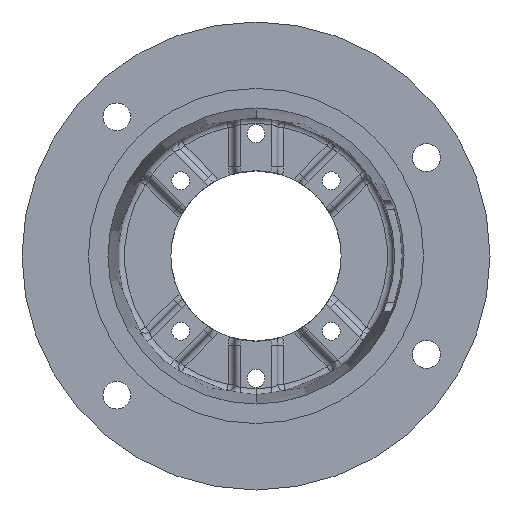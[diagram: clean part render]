
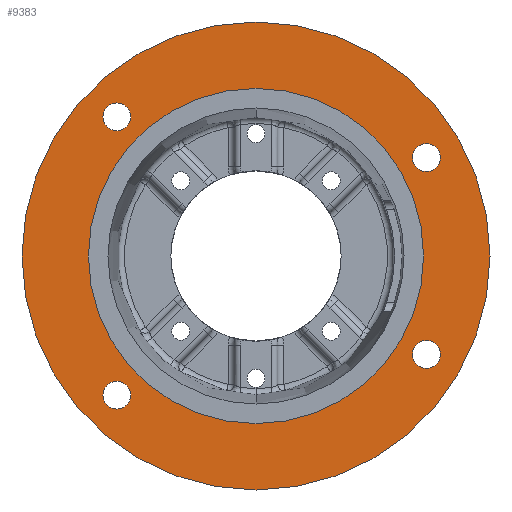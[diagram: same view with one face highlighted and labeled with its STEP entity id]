
A CAD part, front view. The second image highlights one B-rep face of the part: STEP entity #9383.
In plain terms, the highlighted planar face has unit normal (0, -1, 0).
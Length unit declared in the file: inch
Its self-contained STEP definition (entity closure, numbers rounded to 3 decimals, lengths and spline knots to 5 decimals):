
#212 = DIRECTION ( 'NONE',  ( 0., 0., -1. ) ) ;
#224 = DIRECTION ( 'NONE',  ( 0., 0., -1. ) ) ;
#360 = ORIENTED_EDGE ( 'NONE', *, *, #10412, .F. ) ;
#396 = ORIENTED_EDGE ( 'NONE', *, *, #7451, .F. ) ;
#403 = DIRECTION ( 'NONE',  ( 0., 0., -1. ) ) ;
#590 = CARTESIAN_POINT ( 'NONE',  ( -3.27037, 0., -3.27037 ) ) ;
#608 = DIRECTION ( 'NONE',  ( 0., -1., 0. ) ) ;
#756 = CARTESIAN_POINT ( 'NONE',  ( 0., 0., 0. ) ) ;
#982 = EDGE_CURVE ( 'NONE', #4614, #3850, #2630, .T. ) ;
#993 = VERTEX_POINT ( 'NONE', #7745 ) ;
#1232 = CIRCLE ( 'NONE', #5957, 0.32812 ) ;
#1277 = EDGE_LOOP ( 'NONE', ( #3266, #396 ) ) ;
#1378 = DIRECTION ( 'NONE',  ( 0., -1., 0. ) ) ;
#1473 = ORIENTED_EDGE ( 'NONE', *, *, #10818, .T. ) ;
#1701 = AXIS2_PLACEMENT_3D ( 'NONE', #8020, #1378, #9106 ) ;
#1710 = DIRECTION ( 'NONE',  ( 0., 0., -1. ) ) ;
#1889 = EDGE_CURVE ( 'NONE', #10863, #2524, #10038, .T. ) ;
#1979 = AXIS2_PLACEMENT_3D ( 'NONE', #756, #608, #403 ) ;
#2056 = CARTESIAN_POINT ( 'NONE',  ( 0., 0., 5.5 ) ) ;
#2091 = CARTESIAN_POINT ( 'NONE',  ( -3.27037, 0., -3.27037 ) ) ;
#2209 = EDGE_CURVE ( 'NONE', #13222, #5861, #5025, .T. ) ;
#2244 = CARTESIAN_POINT ( 'NONE',  ( -3.27037, 0., 3.27037 ) ) ;
#2524 = VERTEX_POINT ( 'NONE', #12815 ) ;
#2630 = CIRCLE ( 'NONE', #5554, 0.32812 ) ;
#2653 = CARTESIAN_POINT ( 'NONE',  ( -3.27037, 0., 3.59849 ) ) ;
#2874 = VERTEX_POINT ( 'NONE', #6394 ) ;
#2882 = EDGE_CURVE ( 'NONE', #5861, #13222, #3119, .T. ) ;
#2988 = DIRECTION ( 'NONE',  ( 0., -1., 0. ) ) ;
#3119 = CIRCLE ( 'NONE', #8223, 3.9385 ) ;
#3164 = DIRECTION ( 'NONE',  ( 0., 1., 0. ) ) ;
#3199 = DIRECTION ( 'NONE',  ( 0., 0., -1. ) ) ;
#3266 = ORIENTED_EDGE ( 'NONE', *, *, #9667, .F. ) ;
#3356 = DIRECTION ( 'NONE',  ( 0., 0., -1. ) ) ;
#3719 = AXIS2_PLACEMENT_3D ( 'NONE', #9693, #2988, #14217 ) ;
#3850 = VERTEX_POINT ( 'NONE', #13952 ) ;
#3887 = EDGE_LOOP ( 'NONE', ( #11900, #12269 ) ) ;
#4198 = FACE_BOUND ( 'NONE', #9244, .T. ) ;
#4264 = CARTESIAN_POINT ( 'NONE',  ( 4.00537, 0., -1.98438 ) ) ;
#4273 = AXIS2_PLACEMENT_3D ( 'NONE', #2244, #9968, #3356 ) ;
#4542 = VERTEX_POINT ( 'NONE', #4264 ) ;
#4558 = CARTESIAN_POINT ( 'NONE',  ( 4.00537, 0., -2.3125 ) ) ;
#4614 = VERTEX_POINT ( 'NONE', #2653 ) ;
#4706 = CIRCLE ( 'NONE', #10472, 0.32812 ) ;
#4749 = VERTEX_POINT ( 'NONE', #12782 ) ;
#5015 = CARTESIAN_POINT ( 'NONE',  ( 4.00537, 0., 2.3125 ) ) ;
#5025 = CIRCLE ( 'NONE', #1979, 3.9385 ) ;
#5043 = EDGE_CURVE ( 'NONE', #4749, #4542, #13011, .T. ) ;
#5075 = CIRCLE ( 'NONE', #5167, 0.32812 ) ;
#5122 = VERTEX_POINT ( 'NONE', #11437 ) ;
#5167 = AXIS2_PLACEMENT_3D ( 'NONE', #2091, #9807, #3199 ) ;
#5554 = AXIS2_PLACEMENT_3D ( 'NONE', #7450, #7506, #7556 ) ;
#5641 = DIRECTION ( 'NONE',  ( 0., 0., -1. ) ) ;
#5714 = EDGE_CURVE ( 'NONE', #2524, #10863, #6594, .T. ) ;
#5861 = VERTEX_POINT ( 'NONE', #13717 ) ;
#5957 = AXIS2_PLACEMENT_3D ( 'NONE', #4558, #12250, #5641 ) ;
#6126 = DIRECTION ( 'NONE',  ( 0., 0., -1. ) ) ;
#6177 = DIRECTION ( 'NONE',  ( 0., 0., -1. ) ) ;
#6195 = DIRECTION ( 'NONE',  ( 0., -1., 0. ) ) ;
#6228 = CARTESIAN_POINT ( 'NONE',  ( 0., 0., 0. ) ) ;
#6311 = AXIS2_PLACEMENT_3D ( 'NONE', #12021, #3164, #13151 ) ;
#6394 = CARTESIAN_POINT ( 'NONE',  ( 0., 0., -5.5 ) ) ;
#6594 = CIRCLE ( 'NONE', #9918, 0.32812 ) ;
#6720 = CIRCLE ( 'NONE', #14248, 5.5 ) ;
#6859 = DIRECTION ( 'NONE',  ( 0., -1., 0. ) ) ;
#6867 = DIRECTION ( 'NONE',  ( 0., -1., 0. ) ) ;
#7123 = FACE_BOUND ( 'NONE', #1277, .T. ) ;
#7216 = CIRCLE ( 'NONE', #4273, 0.32812 ) ;
#7450 = CARTESIAN_POINT ( 'NONE',  ( -3.27037, 0., 3.27037 ) ) ;
#7451 = EDGE_CURVE ( 'NONE', #993, #5122, #5075, .T. ) ;
#7506 = DIRECTION ( 'NONE',  ( 0., -1., 0. ) ) ;
#7556 = DIRECTION ( 'NONE',  ( 0., 0., -1. ) ) ;
#7745 = CARTESIAN_POINT ( 'NONE',  ( -3.27037, 0., -2.94224 ) ) ;
#7891 = ORIENTED_EDGE ( 'NONE', *, *, #13385, .F. ) ;
#8020 = CARTESIAN_POINT ( 'NONE',  ( 0., 0., 0. ) ) ;
#8223 = AXIS2_PLACEMENT_3D ( 'NONE', #6228, #6195, #6177 ) ;
#8343 = DIRECTION ( 'NONE',  ( 0., -1., 0. ) ) ;
#9106 = DIRECTION ( 'NONE',  ( 0., 0., -1. ) ) ;
#9244 = EDGE_LOOP ( 'NONE', ( #11103, #11876 ) ) ;
#9383 = ADVANCED_FACE ( 'NONE', ( #13004, #12654, #7123, #10059, #4198, #9716 ), #10912, .F. ) ;
#9403 = EDGE_LOOP ( 'NONE', ( #12509, #1473 ) ) ;
#9579 = CARTESIAN_POINT ( 'NONE',  ( 0., 0., -3.9385 ) ) ;
#9667 = EDGE_CURVE ( 'NONE', #5122, #993, #4706, .T. ) ;
#9693 = CARTESIAN_POINT ( 'NONE',  ( 4.00537, 0., 2.3125 ) ) ;
#9716 = FACE_OUTER_BOUND ( 'NONE', #9403, .T. ) ;
#9729 = AXIS2_PLACEMENT_3D ( 'NONE', #13497, #6859, #212 ) ;
#9807 = DIRECTION ( 'NONE',  ( 0., -1., 0. ) ) ;
#9918 = AXIS2_PLACEMENT_3D ( 'NONE', #5015, #12751, #6126 ) ;
#9968 = DIRECTION ( 'NONE',  ( 0., -1., 0. ) ) ;
#10038 = CIRCLE ( 'NONE', #3719, 0.32812 ) ;
#10059 = FACE_BOUND ( 'NONE', #13387, .T. ) ;
#10275 = EDGE_LOOP ( 'NONE', ( #12764, #360 ) ) ;
#10412 = EDGE_CURVE ( 'NONE', #4542, #4749, #1232, .T. ) ;
#10472 = AXIS2_PLACEMENT_3D ( 'NONE', #590, #8343, #1710 ) ;
#10818 = EDGE_CURVE ( 'NONE', #12221, #2874, #11749, .T. ) ;
#10863 = VERTEX_POINT ( 'NONE', #11308 ) ;
#10912 = PLANE ( 'NONE',  #6311 ) ;
#11103 = ORIENTED_EDGE ( 'NONE', *, *, #2209, .F. ) ;
#11308 = CARTESIAN_POINT ( 'NONE',  ( 4.00537, 0., 1.98437 ) ) ;
#11437 = CARTESIAN_POINT ( 'NONE',  ( -3.27037, 0., -3.59849 ) ) ;
#11713 = ORIENTED_EDGE ( 'NONE', *, *, #982, .F. ) ;
#11749 = CIRCLE ( 'NONE', #1701, 5.5 ) ;
#11876 = ORIENTED_EDGE ( 'NONE', *, *, #2882, .F. ) ;
#11900 = ORIENTED_EDGE ( 'NONE', *, *, #1889, .F. ) ;
#11911 = EDGE_CURVE ( 'NONE', #2874, #12221, #6720, .T. ) ;
#12021 = CARTESIAN_POINT ( 'NONE',  ( -5.5, 0., 0. ) ) ;
#12221 = VERTEX_POINT ( 'NONE', #2056 ) ;
#12250 = DIRECTION ( 'NONE',  ( 0., -1., 0. ) ) ;
#12269 = ORIENTED_EDGE ( 'NONE', *, *, #5714, .F. ) ;
#12509 = ORIENTED_EDGE ( 'NONE', *, *, #11911, .T. ) ;
#12654 = FACE_BOUND ( 'NONE', #10275, .T. ) ;
#12751 = DIRECTION ( 'NONE',  ( 0., -1., 0. ) ) ;
#12764 = ORIENTED_EDGE ( 'NONE', *, *, #5043, .F. ) ;
#12782 = CARTESIAN_POINT ( 'NONE',  ( 4.00537, 0., -2.64063 ) ) ;
#12815 = CARTESIAN_POINT ( 'NONE',  ( 4.00537, 0., 2.64062 ) ) ;
#13004 = FACE_BOUND ( 'NONE', #3887, .T. ) ;
#13011 = CIRCLE ( 'NONE', #9729, 0.32812 ) ;
#13151 = DIRECTION ( 'NONE',  ( 0., 0., 1. ) ) ;
#13222 = VERTEX_POINT ( 'NONE', #9579 ) ;
#13385 = EDGE_CURVE ( 'NONE', #3850, #4614, #7216, .T. ) ;
#13387 = EDGE_LOOP ( 'NONE', ( #7891, #11713 ) ) ;
#13497 = CARTESIAN_POINT ( 'NONE',  ( 4.00537, 0., -2.3125 ) ) ;
#13509 = CARTESIAN_POINT ( 'NONE',  ( 0., 0., 0. ) ) ;
#13717 = CARTESIAN_POINT ( 'NONE',  ( 0., 0., 3.9385 ) ) ;
#13952 = CARTESIAN_POINT ( 'NONE',  ( -3.27037, 0., 2.94224 ) ) ;
#14217 = DIRECTION ( 'NONE',  ( 0., 0., -1. ) ) ;
#14248 = AXIS2_PLACEMENT_3D ( 'NONE', #13509, #6867, #224 ) ;
